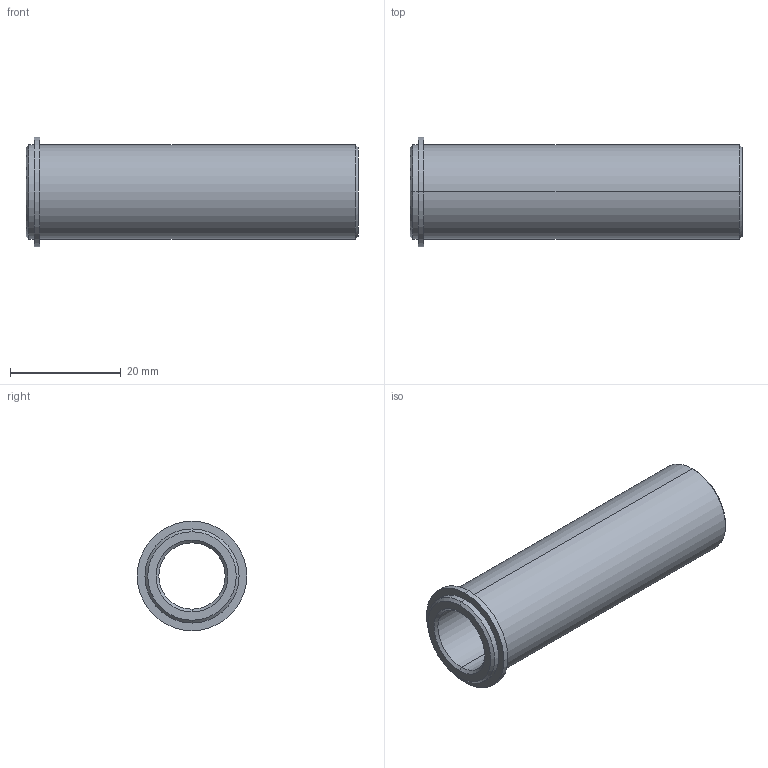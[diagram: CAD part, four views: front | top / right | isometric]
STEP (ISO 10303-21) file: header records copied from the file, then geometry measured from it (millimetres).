
FILE_DESCRIPTION (( 'STEP AP214' ), '1' );
FILE_NAME ('F1332_12x060.STEP', '2020-04-16T17:23:32', ( '' ), ( '' ), 'SwSTEP 2.0', 'SolidWorks 2014', '' );
FILE_SCHEMA (( 'AUTOMOTIVE_DESIGN' ));
Length unit declared in the file: millimetre
Products named in the file (1): F1332_12x060
Bounding box: 60 x 19.8 x 19.8 mm (x, y, z)
Volume: 6891.1 mm3; surface area: 5811.4 mm2
Topology: 1 solids, 1 shells, 20 faces, 40 edges, 24 vertices
Faces by surface type: cone 8, cylinder 8, plane 4
Entity records: 562 total; most frequent: DIRECTION 106, CARTESIAN_POINT 85, ORIENTED_EDGE 80, AXIS2_PLACEMENT_3D 45, EDGE_CURVE 40, VERTEX_POINT 24, EDGE_LOOP 24, CIRCLE 24
